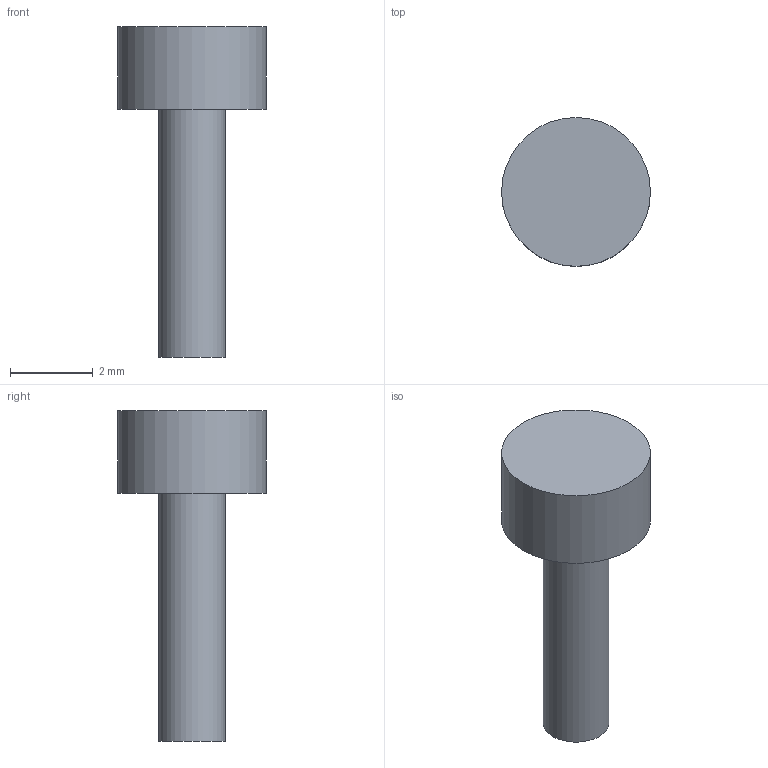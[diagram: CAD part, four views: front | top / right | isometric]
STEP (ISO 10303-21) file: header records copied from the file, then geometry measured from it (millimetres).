
FILE_DESCRIPTION(('Open CASCADE Model'),'2;1');
FILE_NAME('Open CASCADE Shape Model','2026-09-24T17:43:03',('Author'),( 'Open CASCADE'),'Open CASCADE STEP processor 7.8','Open CASCADE 7.8' ,'Unknown');
FILE_SCHEMA(('AUTOMOTIVE_DESIGN { 1 0 10303 214 1 1 1 1 }'));
Length unit declared in the file: millimetre
Products named in the file (1): Open CASCADE STEP translator 7.8 43
Bounding box: 3.6 x 3.6 x 8 mm (x, y, z)
Volume: 32.4 mm3; surface area: 73.1 mm2
Topology: 1 solids, 1 shells, 5 faces, 6 edges, 4 vertices
Faces by surface type: plane 3, cylinder 2
Full cylindrical faces by diameter (mm): 1.6 x1, 3.6 x1
Entity records: 192 total; most frequent: DIRECTION 34, CARTESIAN_POINT 28, ORIENTED_EDGE 12, PCURVE 12, DEFINITIONAL_REPRESENTATION 12, AXIS2_PLACEMENT_3D 10, LINE 10, VECTOR 10
